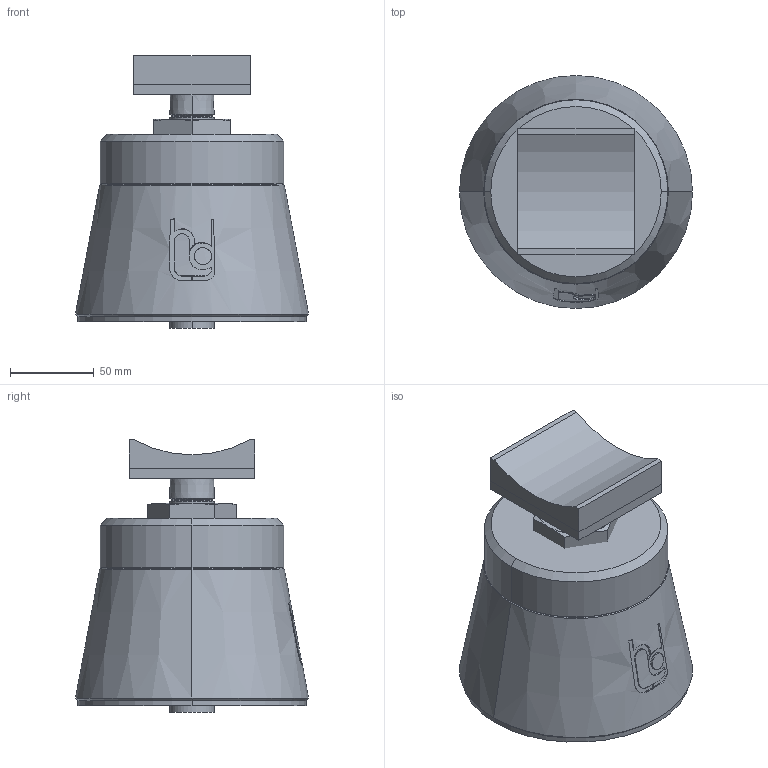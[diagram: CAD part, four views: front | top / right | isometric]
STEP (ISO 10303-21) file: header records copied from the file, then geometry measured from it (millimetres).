
FILE_DESCRIPTION(('STEP AP214'),'1');
FILE_NAME('RSRFS2_DN125.stp','2018-07-02T06:02:32',(' '),(' '),'Spatial InterOp 3D',' ',' ');
FILE_SCHEMA(('automotive_design'));
Length unit declared in the file: millimetre
Products named in the file (6): 1; 2; 3; 4; 5; 6
Bounding box: 139.44 x 139.44 x 163 mm (x, y, z)
Volume: 1493239.5 mm3; surface area: 159055 mm2
Topology: 6 solids, 6 shells, 127 faces, 312 edges, 201 vertices
Faces by surface type: plane 59, cylinder 37, cone 27, torus 4
Entity records: 5422 total; most frequent: CARTESIAN_POINT 1281, DIRECTION 635, ORIENTED_EDGE 624, EDGE_CURVE 312, AXIS2_PLACEMENT_3D 239, VERTEX_POINT 201, LINE 157, VECTOR 157
